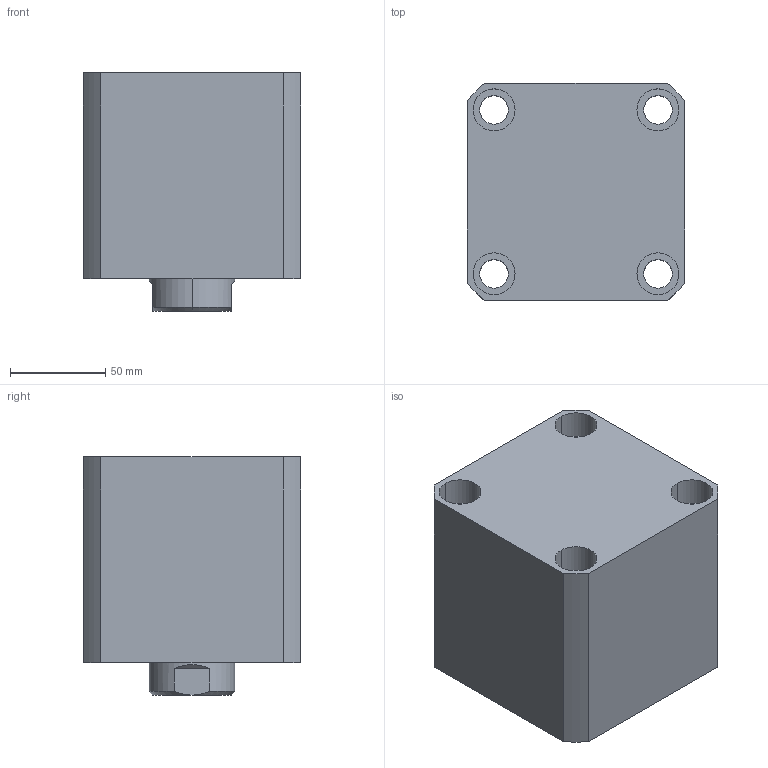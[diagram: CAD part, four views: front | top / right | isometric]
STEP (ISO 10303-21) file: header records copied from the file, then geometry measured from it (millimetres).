
FILE_DESCRIPTION (( 'STEP AP214' ), '1' );
FILE_NAME ('chtb-sdma80x30n_asm.STEP', '2018-05-29T02:34:53', ( 'Windows' ), ( 'Microsoft' ), 'SwSTEP 2.0', 'SolidWorks 2015', '' );
FILE_SCHEMA (( 'AUTOMOTIVE_DESIGN' ));
Length unit declared in the file: millimetre
Products named in the file (4): chtb-sdma80x30n_asm; CHTB-SDMA80X30NBT; CHTB-SD80X30NHSG; CHTB-SD80QG
Assembly tree (3 placements, depth 2):
  chtb-sdma80x30n_asm
    CHTB-SD80QG
    CHTB-SD80X30NHSG
    CHTB-SDMA80X30NBT
Bounding box: 114 x 114 x 125 mm (x, y, z)
Volume: 1168982.5 mm3; surface area: 181351.2 mm2
Topology: 3 solids, 3 shells, 190 faces, 516 edges, 345 vertices
Faces by surface type: cylinder 107, plane 35, torus 18, cone 16, bspline 14
Entity records: 15170 total; most frequent: CARTESIAN_POINT 10463, ORIENTED_EDGE 1020, DIRECTION 879, EDGE_CURVE 510, AXIS2_PLACEMENT_3D 368, VERTEX_POINT 345, EDGE_LOOP 227, FACE_OUTER_BOUND 190
